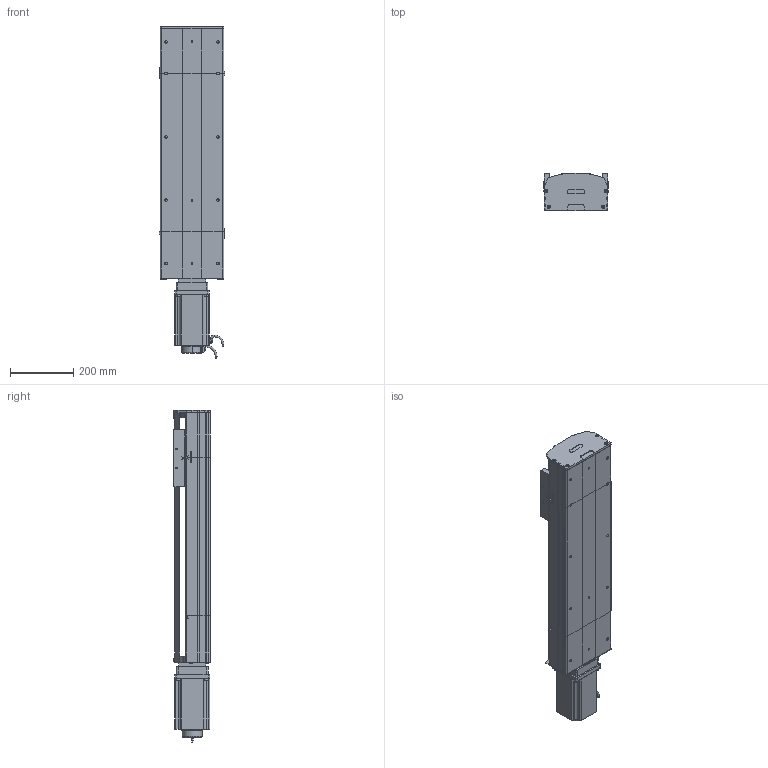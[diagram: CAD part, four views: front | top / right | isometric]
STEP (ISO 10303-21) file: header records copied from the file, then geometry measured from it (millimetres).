
FILE_DESCRIPTION (( 'STEP AP214' ), '1' );
FILE_NAME ('D20 TSH MD S500.STEP', '2010-06-30T08:30:55', ( 'Conseil Régional Haute-Normandie' ), ( 'Conseil Régional Haute-Normandie' ), 'SwSTEP 2.0', 'SolidWorks 2010', '' );
FILE_SCHEMA (( 'AUTOMOTIVE_DESIGN' ));
Length unit declared in the file: millimetre
Products named in the file (33): Conecteur_Default; tete d''axe bas D20; clavette; tail D20 +100_Default; vis M8 L12_Default; corpl tail D20 +100_Default; Chariot D20; chariot D20S_Default; vis M5 L12_Default; plaque de  bout tail D20_Default; Arbre+rail tail D20; guide D20; tete d''axe haut D20; vis M5 L25_Default; vis M5 L8 90°_Default; 2 vis M5 L12_Default; couvercle tail D20_Default; Arbre+rail head D20; course D20 L500_Default; rail + arbre  D20 S500; couvercle D20 S500_Default; head MD D20_Default; Moteur motionking 110BLDC170A-640x; corps 110BLDC170A-630x; corpl head MD D20_Default; corp D20 S500_Default; avant 110BLDC170A-630x; Conecteur2_Default; plaque de  bout head MD D20_Default; codeur 110BLDC170A-630x; couvercle head l D20_Default; Plaque racord D20_Default; D20 TSH MD S500
Assembly tree (56 placements, depth 4):
  D20 TSH MD S500
    tail D20 +100_Default
      plaque de  bout tail D20_Default
      couvercle tail D20_Default
      Arbre+rail tail D20
      2 vis M5 L12_Default  x4
      tete d''axe bas D20
      vis M5 L25_Default  x2
      vis M5 L8 90°_Default  x2
      tete d''axe haut D20
      corpl tail D20 +100_Default
    chariot D20S_Default
      vis M5 L12_Default  x4
      guide D20  x2
      Chariot D20
    head MD D20_Default
      2 vis M5 L12_Default  x6
      vis M8 L12_Default  x4
      vis M5 L12_Default  x4
      plaque de  bout head MD D20_Default
      couvercle head l D20_Default
      vis M5 L25_Default  x2
      Plaque racord D20_Default
      Moteur motionking 110BLDC170A-640x
        codeur 110BLDC170A-630x
        Conecteur2_Default
        avant 110BLDC170A-630x
        clavette
        corps 110BLDC170A-630x
        Conecteur_Default
      Arbre+rail head D20
      corpl head MD D20_Default
    course D20 L500_Default
      rail + arbre  D20 S500
      couvercle D20 S500_Default
      corp D20 S500_Default
Bounding box: 206 x 115.7 x 1048.5 mm (x, y, z)
Volume: 9127035.9 mm3; surface area: 1813410.9 mm2
Topology: 81 solids, 81 shells, 2210 faces, 5526 edges, 3575 vertices
Faces by surface type: plane 1342, cylinder 592, bspline 136, torus 73, cone 67
Entity records: 72115 total; most frequent: CARTESIAN_POINT 23850, ORIENTED_EDGE 8456, DIRECTION 7909, EDGE_CURVE 4228, LINE 2841, VECTOR 2841, VERTEX_POINT 2787, AXIS2_PLACEMENT_3D 2534
